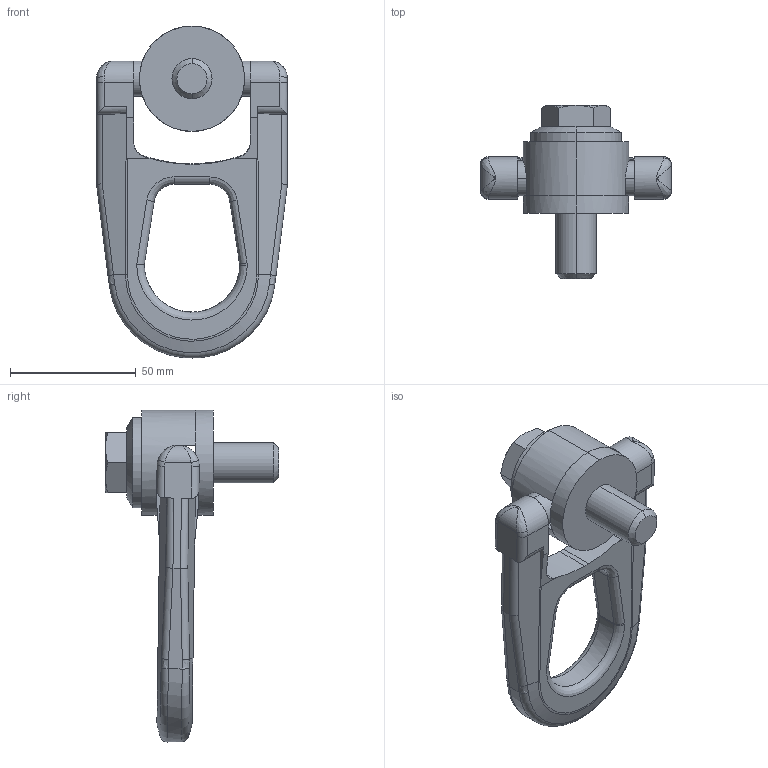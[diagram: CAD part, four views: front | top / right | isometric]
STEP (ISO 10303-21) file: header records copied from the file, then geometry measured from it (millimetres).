
FILE_DESCRIPTION (( 'STEP AP203' ), '1' );
FILE_NAME ('63200.W0016.step', '2013-12-13T15:22:36', ( 'User' ), ( '' ), 'SwSTEP 2.0', 'SolidWorks 2009', '' );
FILE_SCHEMA (( 'CONFIG_CONTROL_DESIGN' ));
Length unit declared in the file: millimetre
Products named in the file (3): Part1_63200.W0016; 63200.W0016; Part3
Assembly tree (2 placements, depth 2):
  63200.W0016
    Part3
    Part1_63200.W0016
Bounding box: 76 x 69 x 132.2 mm (x, y, z)
Volume: 109442.1 mm3; surface area: 27149.2 mm2
Topology: 2 solids, 2 shells, 138 faces, 344 edges, 211 vertices
Faces by surface type: plane 47, cylinder 45, bspline 26, cone 13, torus 7
Entity records: 6802 total; most frequent: CARTESIAN_POINT 3466, ORIENTED_EDGE 688, DIRECTION 578, EDGE_CURVE 344, AXIS2_PLACEMENT_3D 218, VERTEX_POINT 211, EDGE_LOOP 143, VECTOR 142
